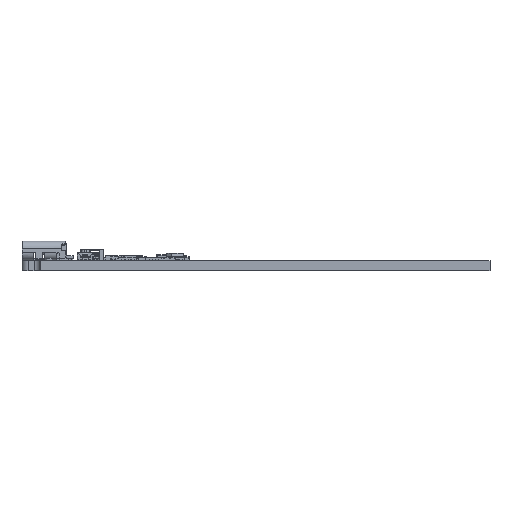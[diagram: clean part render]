
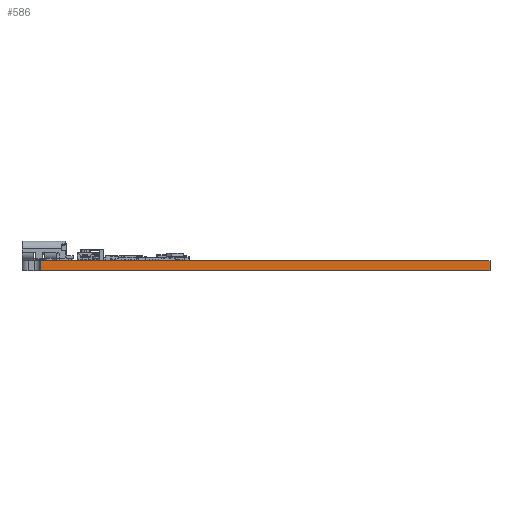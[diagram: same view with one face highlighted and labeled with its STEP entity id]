
A CAD part, front view. The second image highlights one B-rep face of the part: STEP entity #586.
In plain terms, the highlighted planar face has unit normal (0, -1, 0).
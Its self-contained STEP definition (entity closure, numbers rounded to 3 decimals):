
#561 = VERTEX_POINT('',#562);
#562 = CARTESIAN_POINT('',(75.,0.,1.692));
#568 = EDGE_CURVE('',#569,#561,#571,.T.);
#569 = VERTEX_POINT('',#570);
#570 = CARTESIAN_POINT('',(75.,0.,0.));
#571 = LINE('',#572,#573);
#572 = CARTESIAN_POINT('',(75.,0.,0.));
#573 = VECTOR('',#574,1.);
#574 = DIRECTION('',(0.,0.,1.));
#586 = ADVANCED_FACE('',(#587),#612,.T.);
#587 = FACE_BOUND('',#588,.T.);
#588 = EDGE_LOOP('',(#589,#590,#598,#606));
#589 = ORIENTED_EDGE('',*,*,#568,.T.);
#590 = ORIENTED_EDGE('',*,*,#591,.T.);
#591 = EDGE_CURVE('',#561,#592,#594,.T.);
#592 = VERTEX_POINT('',#593);
#593 = CARTESIAN_POINT('',(0.,0.,1.692));
#594 = LINE('',#595,#596);
#595 = CARTESIAN_POINT('',(75.,0.,1.692));
#596 = VECTOR('',#597,1.);
#597 = DIRECTION('',(-1.,0.,0.));
#598 = ORIENTED_EDGE('',*,*,#599,.F.);
#599 = EDGE_CURVE('',#600,#592,#602,.T.);
#600 = VERTEX_POINT('',#601);
#601 = CARTESIAN_POINT('',(0.,0.,0.));
#602 = LINE('',#603,#604);
#603 = CARTESIAN_POINT('',(0.,0.,0.));
#604 = VECTOR('',#605,1.);
#605 = DIRECTION('',(0.,0.,1.));
#606 = ORIENTED_EDGE('',*,*,#607,.F.);
#607 = EDGE_CURVE('',#569,#600,#608,.T.);
#608 = LINE('',#609,#610);
#609 = CARTESIAN_POINT('',(75.,0.,0.));
#610 = VECTOR('',#611,1.);
#611 = DIRECTION('',(-1.,0.,0.));
#612 = PLANE('',#613);
#613 = AXIS2_PLACEMENT_3D('',#614,#615,#616);
#614 = CARTESIAN_POINT('',(75.,0.,0.));
#615 = DIRECTION('',(0.,-1.,0.));
#616 = DIRECTION('',(-1.,0.,0.));
